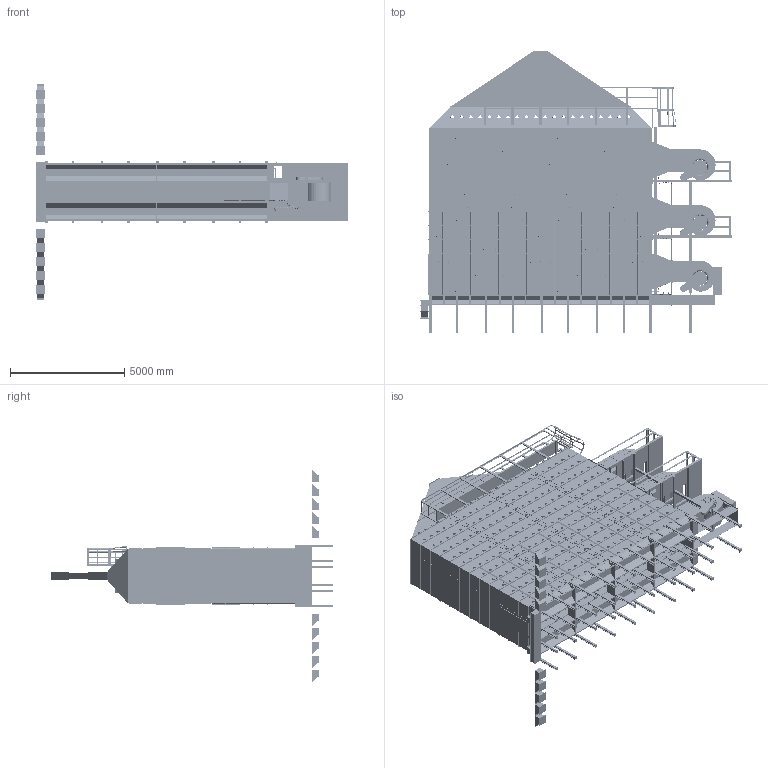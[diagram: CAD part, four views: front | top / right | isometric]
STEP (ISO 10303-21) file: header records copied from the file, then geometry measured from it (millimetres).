
FILE_DESCRIPTION(/* description */ ('PLAN AND ELEVATION VIEW FOR D32260 WITH ROOF & GRAVITY FILL'),/* implementation_level */ '2;1');
FILE_NAME(/* name */ 'C:\Engineering\Designs\Sales\Dryer\Workspaces\D32 All\D32260GF.stp',/* time_stamp */ '2025-01-07T09:53:11-06:00',/* author */ ('max.fleming'),/* organization */ (''),/* preprocessor_version */ 'ST-DEVELOPER v18.1',/* originating_system */ 'Autodesk Inventor 2022',/* authorisation */ '');
FILE_SCHEMA (('AUTOMOTIVE_DESIGN { 1 0 10303 214 3 1 1 }'));
Products named in the file (38): D32260GF; 32FT CATWALK; 32FT FRAME; 8FT LHRH FRAME; Frame Support; 32FT Grav Assy; 32FT ROOF GF; 8FTRoof GF MID; 8FTRoof GF LHRH; Tongue; 12'' CROSS DRAG; Platform Support 1-T; 32FT BODY TIER; LH Body; MID Body; RH Body; LH Body_MIR5; MID Body_MIR4; RH Body_MIR5; Outside Splice; Trans & Blower; Screen Guard; Belt Shield; LP Fuel; Standard Size End Plenum Panels; Ladder 2' section; Platform; 1 Tier Vertical Support; LP Inlet; 2401002; LP Middle Connection; F048484; F048470; F1715410; Liquid Propane Pipe; Leg Kit-02; Leg Kit-02_1; Stiffeners
Assembly tree (244 placements, depth 3):
  D32260GF
    32FT CATWALK
    32FT FRAME
      8FT LHRH FRAME  x4
      Frame Support  x6
    32FT Grav Assy
    32FT ROOF GF
      8FTRoof GF LHRH  x2
      8FTRoof GF MID  x2
    Tongue
    Platform Support 1-T
    32FT BODY TIER  x12
      LH Body
      MID Body
      RH Body
      LH Body_MIR5
      MID Body_MIR4
      RH Body_MIR5
      Outside Splice
    Leg Kit-02  x14
    Leg Kit-02_1  x22
    Trans & Blower  x3
    Screen Guard  x6
    Belt Shield  x3
    LP Fuel  x3
    Standard Size End Plenum Panels  x21
    Platform  x2
    Stiffeners  x96
    1 Tier Vertical Support  x14
    LP Inlet
    2401002
    LP Middle Connection
      F048484
      F048470
      F1715410
    Liquid Propane Pipe  x8
  12'' CROSS DRAG
  Ladder 2' section
Bounding box: 13639.8 x 12384.93 x 9423.4 mm (x, y, z)
Volume: 128113676348.9 mm3; surface area: 1741191401.5 mm2
Topology: 826 solids, 1062 shells, 59948 faces, 155186 edges, 99423 vertices
Faces by surface type: plane 29000, cylinder 17648, bspline 5616, cone 5029, torus 2384, sphere 271
Full cylindrical faces by diameter (mm): 1 x15, 1.651 x9, 1.753 x9, 1.778 x18, 2.019 x6, 2.108 x3, 2.286 x36, 2.489 x3, 2.54 x6, 3.091 x432, 3.175 x7, 3.251 x30, 3.306 x432, 3.522 x3, 3.658 x42, 3.8 x24, 4 x576, 4.039 x30, 4.166 x384, 4.191 x6, 4.229 x3, 4.267 x3, 4.369 x12, 4.445 x12, 4.701 x888, 4.762 x24, 4.851 x12, 4.928 x48, 5.283 x3, 5.527 x30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
Entity records: 747782 total; most frequent: CARTESIAN_POINT 337290, ORIENTED_EDGE 85638, DIRECTION 77043, EDGE_CURVE 42959, VERTEX_POINT 27408, AXIS2_PLACEMENT_3D 26886, LINE 23271, VECTOR 23271
